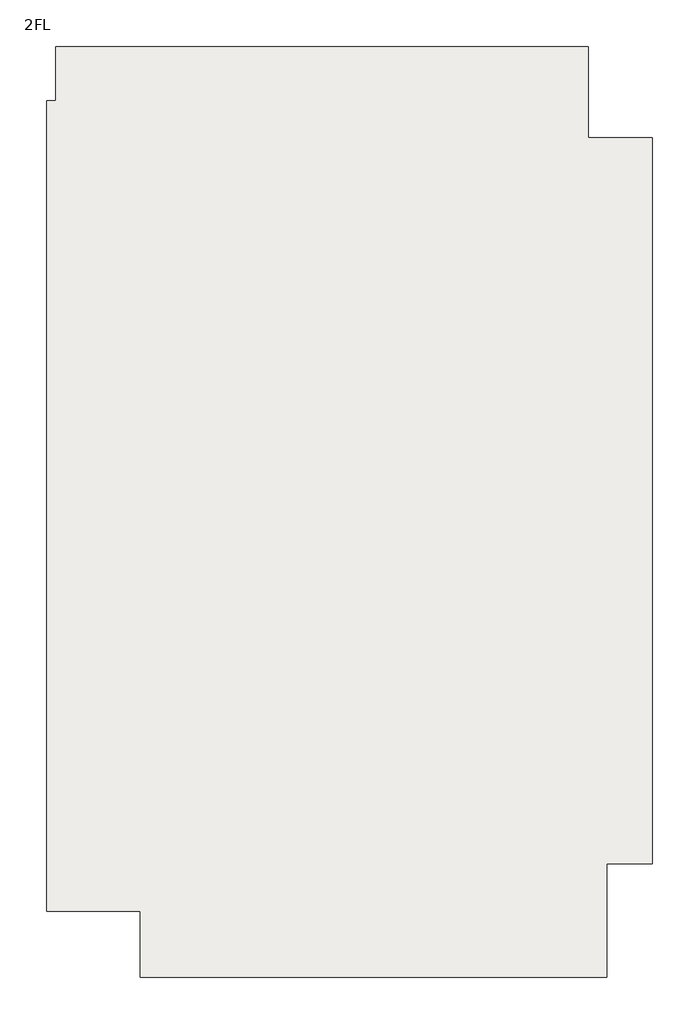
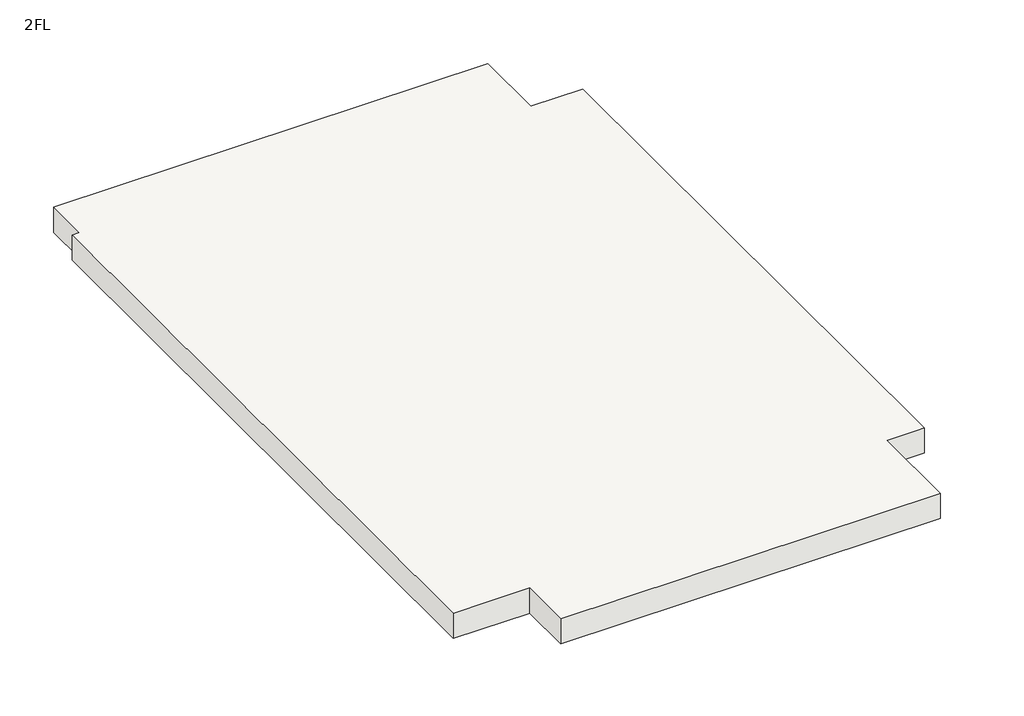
# One storey: 1 slab.
"""IFC4 building model written with IfcOpenShell, lengths in millimetres."""

from ifc_helpers import new_model, si_unit, frame, origin, place, context, project, spatial, polyline, outline, extrude, element, save

model = new_model("IFC4")

# Units and contexts
model_context = context("Model", 3, world=origin())
ifc_project = project(units=[si_unit("LENGTHUNIT", "METRE", prefix="MILLI")], contexts=[model_context])

# Site, building, storey
site = spatial("IfcSite", under=ifc_project)
building = spatial("IfcBuilding", under=site)
storey = spatial("IfcBuildingStorey", under=building, Name="2FL", Elevation=3300.0)

# Slab
placement = place(None, origin())
element("IfcSlab", 1, ObjectType="2FL地板_15cm", at=placement, inside=storey, context=model_context, shape_type="SweptSolid", body=[
    extrude(outline(polyline([(-736.8833533, 1332.1369238), (2041.778025, 1332.1369238), (2041.778025, 857.1369238), (2375.4977464, 857.1369238), (2375.4977464, -2932.3657238), (2137.7171048, -2932.3657238), (2137.7171048, -3524.327457), (-294.7018001, -3524.327457), (-294.7018001, -3179.3416193), (-784.5022536, -3179.3416193), (-784.5022536, 1048.967972), (-736.8833533, 1048.967972), (-736.8833533, 1332.1369238)])), frame((0.0, 0.0, 3130.0), z_axis=(0.0, 0.0, 1.0), x_axis=(1.0, 0.0, 0.0)), (0.0, 0.0, 1.0), 170.0),
])

save(model, "model.ifc")
